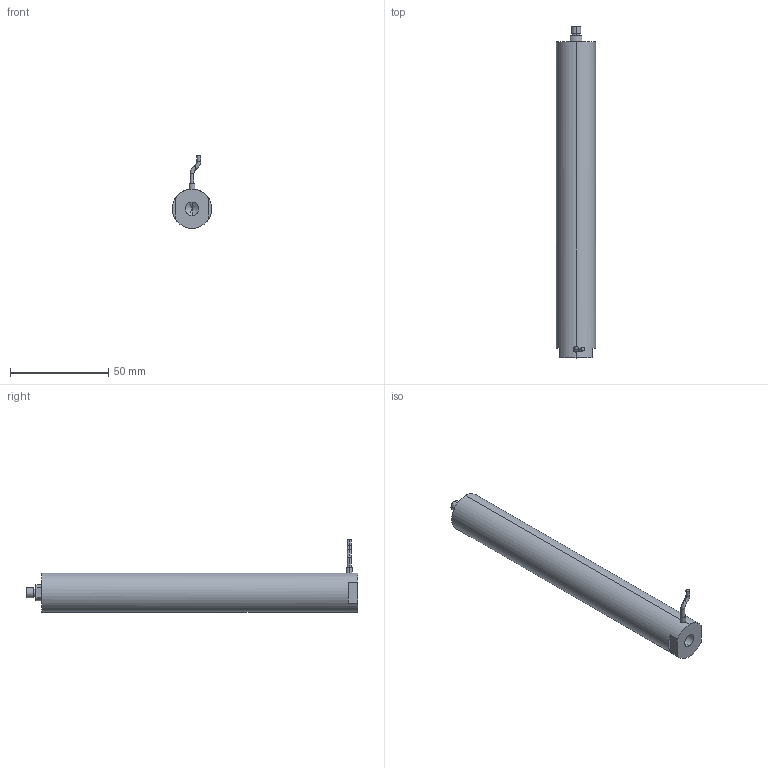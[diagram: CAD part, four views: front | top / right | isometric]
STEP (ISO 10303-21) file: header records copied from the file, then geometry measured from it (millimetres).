
FILE_DESCRIPTION (( 'STEP AP203' ), '1' );
FILE_NAME ('ﾍ篦ﾝﾎﾆﾊｽ160VS20.STEP', '2021-07-08T06:12:30', ( 'ﾎ｢ﾈ橆ﾃｻｧ' ), ( 'ﾎ｢ﾈ晥ｫﾋｾ' ), 'SwSTEP 2.0', 'SolidWorks 2016', '' );
FILE_SCHEMA (( 'CONFIG_CONTROL_DESIGN' ));
Length unit declared in the file: millimetre
Products named in the file (1): 俋蹟恇宒160VS20
Bounding box: 20 x 169 x 37.06 mm (x, y, z)
Volume: 50342.5 mm3; surface area: 11267.1 mm2
Topology: 1 solids, 1 shells, 948 faces, 2561 edges, 1703 vertices
Faces by surface type: bspline 521, plane 309, cylinder 112, torus 4, cone 2
Entity records: 45686 total; most frequent: CARTESIAN_POINT 26474, ORIENTED_EDGE 5118, EDGE_CURVE 2559, DIRECTION 1961, B_SPLINE_CURVE_WITH_KNOTS 1728, VERTEX_POINT 1703, EDGE_LOOP 1038, FACE_OUTER_BOUND 948
